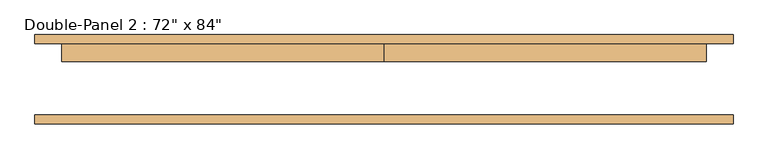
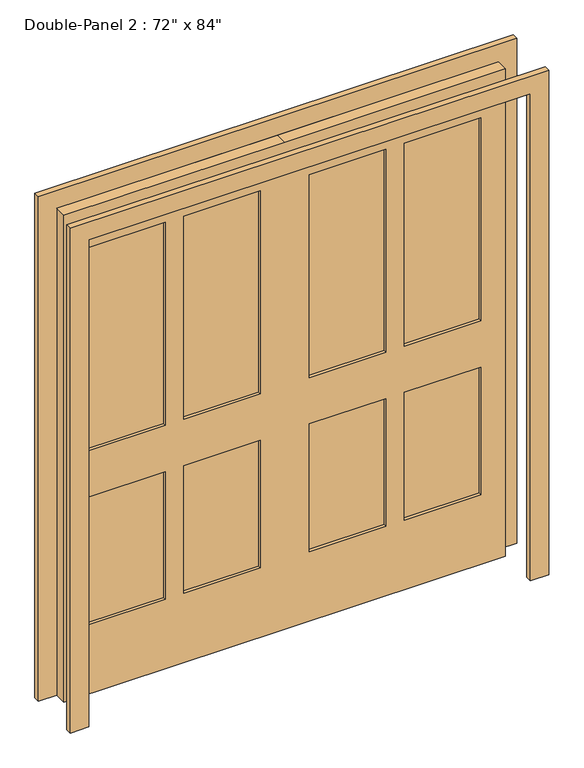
"""IFC4 building model written with IfcOpenShell, lengths in millimetres: door geometry."""

import ifcopenshell
import ifcopenshell.guid

model = None  # the IFC model being written
_history = None  # IfcOwnerHistory: only IFC2X3 demands one
_inside = {}  # id of a spatial element -> (the spatial element, [elements in it])
_under = {}  # id of a project, library or spatial element -> (it, [spatial elements below it])
_declared = {}  # id of a project -> (the project, [libraries it declares])
_typed = {}  # id of a type object -> (the type object, [elements of that type])
_made_of = {}  # id of a material, layer set ... -> (it, [elements and type objects made of it])


def new_model(schema):
    """Start an empty IFC model of exactly this schema.

    Asked for "IFC4X3", IfcOpenShell would pick the latest addendum, in which some entities
    have other attributes; the version numbers below select the first issue.
    IFC2X3 requires an IfcOwnerHistory on every rooted entity: one is made here for all.
    """
    global model, _history
    if schema == "IFC4X3":
        model = ifcopenshell.file(schema_version=(4, 3, 0, 0))
    else:
        model = ifcopenshell.file(schema=schema)
    _inside.clear()
    _under.clear()
    _declared.clear()
    _typed.clear()
    _made_of.clear()
    _history = None
    if model.schema == "IFC2X3":
        org = make("IfcOrganization", Name="unknown")
        user = make(
            "IfcPersonAndOrganization",
            ThePerson=make("IfcPerson", FamilyName="unknown"),
            TheOrganization=org,
        )
        app = make(
            "IfcApplication",
            ApplicationDeveloper=org,
            Version="unknown",
            ApplicationFullName="unknown",
            ApplicationIdentifier="unknown",
        )
        _history = make(
            "IfcOwnerHistory",
            OwningUser=user,
            OwningApplication=app,
            ChangeAction="ADDED",
            CreationDate=0,
        )
    return model


def make(cls, **values):
    """One entity of the class cls with the attributes given. An attribute that is None is left unset."""
    return model.create_entity(
        cls, **{name: value for name, value in values.items() if value is not None}
    )


def rooted(cls, **values):
    """An entity with a GlobalId (a new one), such as an element, a storey or a relation."""
    return make(cls, GlobalId=ifcopenshell.guid.new(), OwnerHistory=_history, **values)


def si_unit(unit_type, name, prefix=None):
    """IfcSIUnit, for example si_unit("LENGTHUNIT", "METRE", prefix="MILLI")."""
    return make("IfcSIUnit", UnitType=unit_type, Prefix=prefix, Name=name)


def assignment(units):
    """IfcUnitAssignment: the units of a project."""
    return None if units is None else make("IfcUnitAssignment", Units=units)


def point(xyz):
    """IfcCartesianPoint."""
    return None if xyz is None else make("IfcCartesianPoint", Coordinates=xyz)


def direction(xyz):
    """IfcDirection."""
    return None if xyz is None else make("IfcDirection", DirectionRatios=xyz)


def frame(location, z_axis=None, x_axis=None):
    """IfcAxis2Placement3D, a coordinate frame: its origin and axes. An axis left out is left unset."""
    return make(
        "IfcAxis2Placement3D",
        Location=point(location),
        Axis=direction(z_axis),
        RefDirection=direction(x_axis),
    )


def origin():
    """The frame at (0, 0, 0) with its axes left unset."""
    return frame((0.0, 0.0, 0.0))


def place(relative_to, where):
    """IfcLocalPlacement: puts the frame where relative to a parent placement (None: the world)."""
    return make(
        "IfcLocalPlacement", PlacementRelTo=relative_to, RelativePlacement=where
    )


def context(
    kind, dimensions, precision=None, world=None, true_north=None, identifier=None
):
    """IfcGeometricRepresentationContext, for example the 3D "Model" context."""
    return make(
        "IfcGeometricRepresentationContext",
        ContextIdentifier=identifier,
        ContextType=kind,
        CoordinateSpaceDimension=dimensions,
        Precision=precision,
        WorldCoordinateSystem=world,
        TrueNorth=true_north,
    )


def project(units=None, contexts=None):
    """IfcProject with its units and contexts."""
    return rooted(
        "IfcProject",
        Name="project",
        RepresentationContexts=contexts,
        UnitsInContext=assignment(units),
    )


def spatial(cls, under=None, at=None, **own):
    """A site, building, storey or space (cls), placed at a placement, below another one or the project."""
    s = rooted(cls, ObjectPlacement=at, **own)
    if under is not None:
        _under.setdefault(under.id(), (under, []))[1].append(s)
    return s


def polyline(points):
    """IfcPolyline through the points."""
    return make("IfcPolyline", Points=[point(p) for p in points])


def outline(outer, holes=None, kind="AREA"):
    """IfcArbitraryClosedProfileDef: a profile drawn as a closed curve; with holes, ...WithVoids."""
    if holes is None:
        return make("IfcArbitraryClosedProfileDef", ProfileType=kind, OuterCurve=outer)
    return make(
        "IfcArbitraryProfileDefWithVoids",
        ProfileType=kind,
        OuterCurve=outer,
        InnerCurves=holes,
    )


def extrude(swept, where, along, depth):
    """IfcExtrudedAreaSolid: the profile swept, set in the frame where, extruded along a direction by depth."""
    return make(
        "IfcExtrudedAreaSolid",
        SweptArea=swept,
        Position=where,
        ExtrudedDirection=direction(along),
        Depth=depth,
    )


def shape(context_of_items, identifier, shape_type, items):
    """IfcShapeRepresentation: the items that make up one representation, for example the "Body"."""
    return make(
        "IfcShapeRepresentation",
        ContextOfItems=context_of_items,
        RepresentationIdentifier=identifier,
        RepresentationType=shape_type,
        Items=items,
    )


def source(mapping_origin, context_of_items, identifier, shape_type, items):
    """IfcRepresentationMap: a shape defined once, which mapped items show again and again."""
    return make(
        "IfcRepresentationMap",
        MappingOrigin=mapping_origin,
        MappedRepresentation=shape(context_of_items, identifier, shape_type, items),
    )


def transform(
    local_origin,
    x_axis=None,
    y_axis=None,
    z_axis=None,
    scale=None,
    scale2=None,
    scale3=None,
    uniform=True,
):
    """IfcCartesianTransformationOperator3D, or its non-uniform kind. x_axis, y_axis, z_axis: its Axis1, 2, 3."""
    if uniform:
        return make(
            "IfcCartesianTransformationOperator3D",
            Axis1=direction(x_axis),
            Axis2=direction(y_axis),
            LocalOrigin=point(local_origin),
            Scale=scale,
            Axis3=direction(z_axis),
        )
    return make(
        "IfcCartesianTransformationOperator3DnonUniform",
        Axis1=direction(x_axis),
        Axis2=direction(y_axis),
        LocalOrigin=point(local_origin),
        Scale=scale,
        Axis3=direction(z_axis),
        Scale2=scale2,
        Scale3=scale3,
    )


def mapped(mapping_source, mapping_target):
    """IfcMappedItem: shows the shape of a source again, moved by a transform."""
    return make(
        "IfcMappedItem", MappingSource=mapping_source, MappingTarget=mapping_target
    )


def made_of(thing, what):
    """Note that an element or type object is made of a material, layer set ...; save() writes the relation."""
    if what is not None:
        _made_of.setdefault(what.id(), (what, []))[1].append(thing)
    return thing


def element(
    cls,
    number,
    at=None,
    inside=None,
    cuts=None,
    type_object=None,
    material=None,
    context=None,
    identifier="Body",
    shape_type=None,
    held_by="IfcProductDefinitionShape",
    body=None,
    shapes=None,
    **own,
):
    """One element of the class cls, such as IfcWall. Its Tag is "e" and its number.

    at: its placement. inside: the storey or other place that contains it. cuts: it is an
    opening in that element (IfcRelVoidsElement). A single representation is given by context,
    identifier, shape_type and body (its items); several are given by shapes. held_by: the class
    of the entity that holds the representations. save() writes the other relations.
    """
    e = rooted(cls, Tag="e%d" % number, ObjectPlacement=at, **own)
    if body is not None:
        shapes = [shape(context, identifier, shape_type, body)]
    if shapes is not None:
        e.Representation = make(held_by, Representations=shapes)
    if inside is not None:
        _inside.setdefault(inside.id(), (inside, []))[1].append(e)
    if cuts is not None:
        rooted(
            "IfcRelVoidsElement", RelatingBuildingElement=cuts, RelatedOpeningElement=e
        )
    if type_object is not None:
        _typed.setdefault(type_object.id(), (type_object, []))[1].append(e)
    return made_of(e, material)


def aggregate(whole, parts):
    """IfcRelAggregates: a whole, such as a stair, and the parts it consists of."""
    return rooted("IfcRelAggregates", RelatingObject=whole, RelatedObjects=parts)


def save(model, path):
    """Write the relations noted so far, then the file.

    IfcRelAggregates (storeys below a building ...), IfcRelContainedInSpatialStructure (elements
    in a storey), IfcRelDefinesByType, IfcRelAssociatesMaterial and IfcRelDeclares: one each for
    every whole, place, type object, material and project.
    """
    for whole, parts in _under.values():
        aggregate(whole, parts)
    for where, things in _inside.values():
        rooted(
            "IfcRelContainedInSpatialStructure",
            RelatedElements=things,
            RelatingStructure=where,
        )
    for kind, things in _typed.values():
        rooted("IfcRelDefinesByType", RelatedObjects=things, RelatingType=kind)
    for what, things in _made_of.values():
        rooted("IfcRelAssociatesMaterial", RelatedObjects=things, RelatingMaterial=what)
    for by, libraries in _declared.values():
        rooted("IfcRelDeclares", RelatingContext=by, RelatedDefinitions=libraries)
    model.write(path)


def door_0b6942a3(model_context):
    return source(origin(), model_context, "Body", "SweptSolid", [
        extrude(outline(polyline([(2209.8, -990.6), (0.0, -990.6), (0.0, -914.4), (2133.6, -914.4), (2133.6, 914.4), (0.0, 914.4), (0.0, 990.6), (2209.8, 990.6), (2209.8, -990.6)])), frame((0.0, 101.6, 0.0), z_axis=(0.0, 1.0, 0.0), x_axis=(0.0, 0.0, 1.0)), (0.0, 0.0, 1.0), 25.4),
        extrude(outline(polyline([(495.3, 88.9), (812.8, 88.9), (812.8, 63.5), (495.3, 63.5), (495.3, 88.9)])), frame((0.0, 0.0, 1066.8), z_axis=(0.0, 0.0, 1.0), x_axis=(1.0, 0.0, 0.0)), (0.0, 0.0, 1.0), 889.0),
        extrude(outline(polyline([(101.6, 88.9), (419.1, 88.9), (419.1, 63.5), (101.6, 63.5), (101.6, 88.9)])), frame((0.0, 0.0, 1066.8), z_axis=(0.0, 0.0, 1.0), x_axis=(1.0, 0.0, 0.0)), (0.0, 0.0, 1.0), 889.0),
        extrude(outline(polyline([(495.3, 88.9), (812.8, 88.9), (812.8, 63.5), (495.3, 63.5), (495.3, 88.9)])), frame((0.0, 0.0, 304.8), z_axis=(0.0, 0.0, 1.0), x_axis=(1.0, 0.0, 0.0)), (0.0, 0.0, 1.0), 558.8),
        extrude(outline(polyline([(101.6, 88.9), (419.1, 88.9), (419.1, 63.5), (101.6, 63.5), (101.6, 88.9)])), frame((0.0, 0.0, 304.8), z_axis=(0.0, 0.0, 1.0), x_axis=(1.0, 0.0, 0.0)), (0.0, 0.0, 1.0), 558.8),
        extrude(outline(polyline([(-419.1, 88.9), (-101.6, 88.9), (-101.6, 63.5), (-419.1, 63.5), (-419.1, 88.9)])), frame((0.0, 0.0, 1066.8), z_axis=(0.0, 0.0, 1.0), x_axis=(1.0, 0.0, 0.0)), (0.0, 0.0, 1.0), 889.0),
        extrude(outline(polyline([(-812.8, 88.9), (-495.3, 88.9), (-495.3, 63.5), (-812.8, 63.5), (-812.8, 88.9)])), frame((0.0, 0.0, 1066.8), z_axis=(0.0, 0.0, 1.0), x_axis=(1.0, 0.0, 0.0)), (0.0, 0.0, 1.0), 889.0),
        extrude(outline(polyline([(-419.1, 88.9), (-101.6, 88.9), (-101.6, 63.5), (-419.1, 63.5), (-419.1, 88.9)])), frame((0.0, 0.0, 304.8), z_axis=(0.0, 0.0, 1.0), x_axis=(1.0, 0.0, 0.0)), (0.0, 0.0, 1.0), 558.8),
        extrude(outline(polyline([(-812.8, 88.9), (-495.3, 88.9), (-495.3, 63.5), (-812.8, 63.5), (-812.8, 88.9)])), frame((0.0, 0.0, 304.8), z_axis=(0.0, 0.0, 1.0), x_axis=(1.0, 0.0, 0.0)), (0.0, 0.0, 1.0), 558.8),
        extrude(outline(polyline([(2133.6, 0.0), (2133.6, -914.4), (0.0, -914.4), (0.0, 0.0), (0.0, 914.4), (2133.6, 914.4), (2133.6, 0.0)]), holes=[polyline([(1955.8, 495.3), (1955.8, 812.8), (1066.8, 812.8), (1066.8, 495.3), (1955.8, 495.3)]), polyline([(1955.8, 101.6), (1955.8, 419.1), (1066.8, 419.1), (1066.8, 101.6), (1955.8, 101.6)]), polyline([(863.6, 495.3), (863.6, 812.8), (304.8, 812.8), (304.8, 495.3), (863.6, 495.3)]), polyline([(863.6, 101.6), (863.6, 419.1), (304.8, 419.1), (304.8, 101.6), (863.6, 101.6)]), polyline([(1066.8, -419.1), (1955.8, -419.1), (1955.8, -101.6), (1066.8, -101.6), (1066.8, -419.1)]), polyline([(1955.8, -812.8), (1955.8, -495.3), (1066.8, -495.3), (1066.8, -812.8), (1955.8, -812.8)]), polyline([(863.6, -419.1), (863.6, -101.6), (304.8, -101.6), (304.8, -419.1), (863.6, -419.1)]), polyline([(863.6, -812.8), (863.6, -495.3), (304.8, -495.3), (304.8, -812.8), (863.6, -812.8)])]), frame((0.0, 50.8, 0.0), z_axis=(0.0, 1.0, 0.0), x_axis=(0.0, 0.0, 1.0)), (0.0, 0.0, 1.0), 50.8),
        extrude(outline(polyline([(2133.6, -914.4), (2133.6, 914.4), (0.0, 914.4), (0.0, 990.6), (2209.8, 990.6), (2209.8, -990.6), (0.0, -990.6), (0.0, -914.4), (2133.6, -914.4)])), frame((0.0, -127.0, 0.0), z_axis=(0.0, 1.0, 0.0), x_axis=(0.0, 0.0, 1.0)), (0.0, 0.0, 1.0), 25.4),
    ])


if __name__ == "__main__":
    model = new_model("IFC4")
    model_context = context("Model", 3, world=origin())
    ifc_project = project(units=[si_unit("LENGTHUNIT", "METRE", prefix="MILLI")], contexts=[model_context])
    site = spatial("IfcSite", under=ifc_project)
    building = spatial("IfcBuilding", under=site)
    placement = place(None, origin())
    door_shape = door_0b6942a3(model_context)
    element("IfcDoor", 1, ObjectType="Double-Panel 2 : 72\" x 84\"", at=placement, inside=building, context=model_context, shape_type="MappedRepresentation", body=[
        mapped(door_shape, transform((0.0, 0.0, 0.0), x_axis=(1.0, 0.0, 0.0), y_axis=(0.0, 1.0, 0.0), z_axis=(0.0, 0.0, 1.0))),
    ])
    save(model, "model.ifc")
